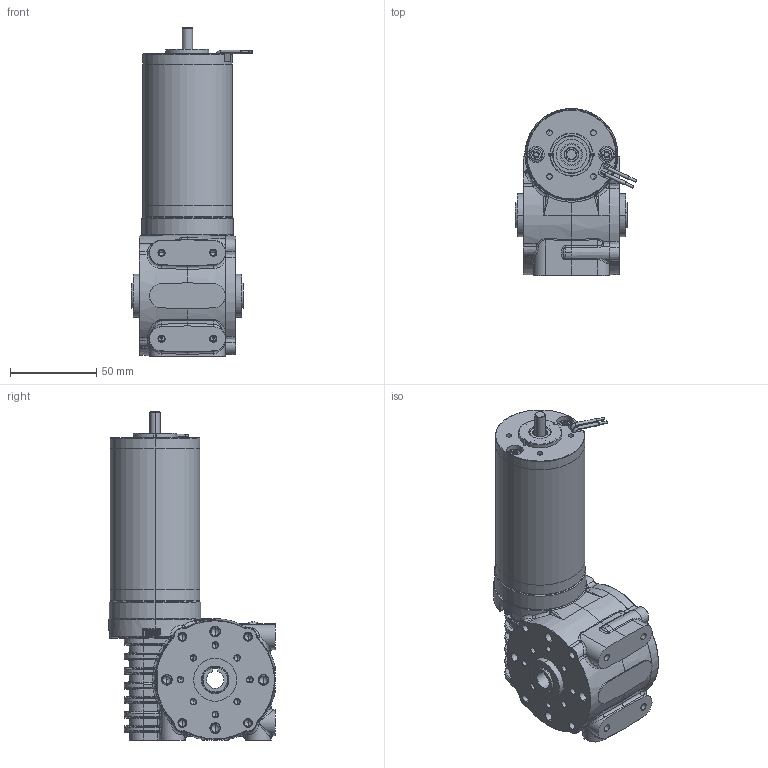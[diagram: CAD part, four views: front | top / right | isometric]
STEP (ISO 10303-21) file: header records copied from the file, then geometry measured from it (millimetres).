
FILE_DESCRIPTION (( 'STEP AP214' ), '1' );
FILE_NAME ('BRx52-30-GB80.STEP', '2025-04-29T07:02:25', ( '' ), ( '' ), 'SwSTEP 2.0', 'SolidWorks 2023', '' );
FILE_SCHEMA (( 'AUTOMOTIVE_DESIGN' ));
Length unit declared in the file: millimetre
Products named in the file (1): BRx52-30-GB80
Bounding box: 70.33 x 96.92 x 190.5 mm (x, y, z)
Volume: 286203.8 mm3; surface area: 138827.8 mm2
Topology: 27 solids, 27 shells, 3133 faces, 7981 edges, 4946 vertices
Faces by surface type: cylinder 1507, plane 539, torus 382, bspline 366, cone 325, sphere 14
Entity records: 153968 total; most frequent: CARTESIAN_POINT 45297, ORIENTED_EDGE 15786, DIRECTION 15696, EDGE_CURVE 7893, AXIS2_PLACEMENT_3D 6497, VERTEX_POINT 4946, CIRCLE 3729, EDGE_LOOP 3351
